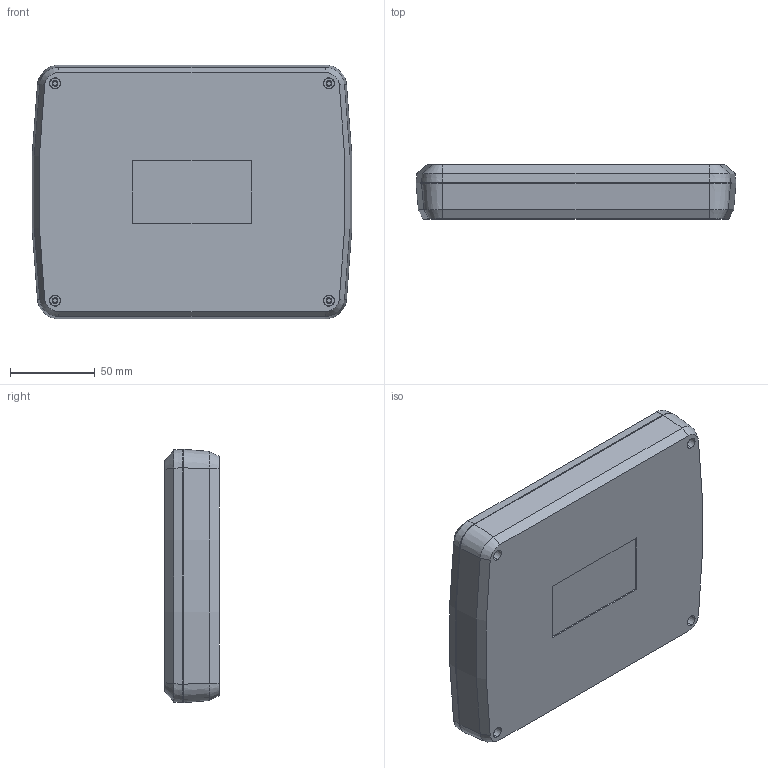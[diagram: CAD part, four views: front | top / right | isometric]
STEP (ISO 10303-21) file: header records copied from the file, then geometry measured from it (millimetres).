
FILE_DESCRIPTION (( 'STEP AP203' ), '1' );
FILE_NAME ('PH2043.STEP', '2017-10-11T08:31:13', ( '' ), ( '' ), 'SwSTEP 2.0', 'SolidWorks 2015', '' );
FILE_SCHEMA (( 'CONFIG_CONTROL_DESIGN' ));
Length unit declared in the file: millimetre
Products named in the file (3): PH2043
Assembly tree (2 placements, depth 2):
  PH2043
    PH2043
    PH2043
Bounding box: 189.19 x 32 x 150 mm (x, y, z)
Volume: 175360 mm3; surface area: 150689 mm2
Topology: 2 solids, 2 shells, 350 faces, 838 edges, 544 vertices
Faces by surface type: cone 154, plane 136, cylinder 32, bspline 28
Entity records: 12790 total; most frequent: CARTESIAN_POINT 4308, DIRECTION 1726, ORIENTED_EDGE 1676, EDGE_CURVE 838, AXIS2_PLACEMENT_3D 683, VERTEX_POINT 544, EDGE_LOOP 410, LINE 360
